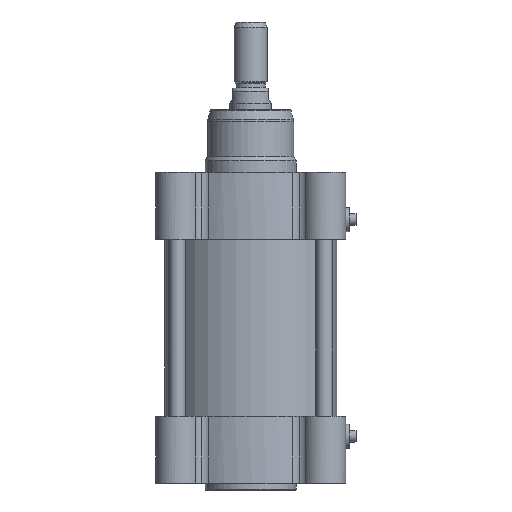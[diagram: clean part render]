
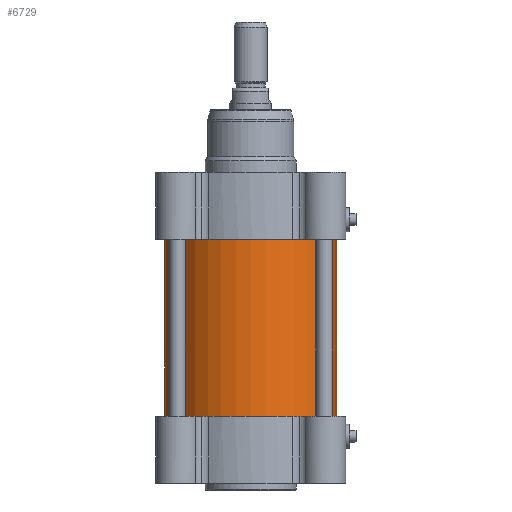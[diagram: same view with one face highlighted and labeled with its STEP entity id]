
A CAD part, front view. The second image highlights one B-rep face of the part: STEP entity #6729.
In plain terms, the highlighted cylindrical face has radius 52 mm (diameter 104 mm), a partial arc.
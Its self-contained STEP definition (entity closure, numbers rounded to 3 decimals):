
#783 = VECTOR ( 'NONE', #2395, 1000. ) ;
#1606 = DIRECTION ( 'NONE',  ( 0., 0., 1. ) ) ;
#2395 = DIRECTION ( 'NONE',  ( 0., 0., 1. ) ) ;
#2619 = DIRECTION ( 'NONE',  ( 0., 0., 1. ) ) ;
#3974 = CARTESIAN_POINT ( 'NONE',  ( 0., 0., 0.2 ) ) ;
#4148 = CARTESIAN_POINT ( 'NONE',  ( 0., 0., 106.8 ) ) ;
#4430 = ORIENTED_EDGE ( 'NONE', *, *, #12678, .T. ) ;
#6729 = ADVANCED_FACE ( 'NONE', ( #22041 ), #26840, .T. ) ;
#7242 = VERTEX_POINT ( 'NONE', #16639 ) ;
#7311 = ORIENTED_EDGE ( 'NONE', *, *, #7531, .F. ) ;
#7531 = EDGE_CURVE ( 'NONE', #7242, #25949, #32236, .T. ) ;
#7597 = DIRECTION ( 'NONE',  ( -1., 0., 0. ) ) ;
#9518 = DIRECTION ( 'NONE',  ( -1., 0., 0. ) ) ;
#9975 = CIRCLE ( 'NONE', #12612, 52. ) ;
#9998 = ORIENTED_EDGE ( 'NONE', *, *, #22264, .F. ) ;
#10364 = VERTEX_POINT ( 'NONE', #15837 ) ;
#11551 = DIRECTION ( 'NONE',  ( 0., 0., -1. ) ) ;
#12612 = AXIS2_PLACEMENT_3D ( 'NONE', #4148, #14216, #7597 ) ;
#12678 = EDGE_CURVE ( 'NONE', #14091, #10364, #22901, .T. ) ;
#14091 = VERTEX_POINT ( 'NONE', #30563 ) ;
#14216 = DIRECTION ( 'NONE',  ( 0., 0., 1. ) ) ;
#14281 = EDGE_CURVE ( 'NONE', #14091, #7242, #22810, .T. ) ;
#15837 = CARTESIAN_POINT ( 'NONE',  ( 52., 0., 106.8 ) ) ;
#15943 = EDGE_LOOP ( 'NONE', ( #30071, #4430, #9998, #7311 ) ) ;
#16639 = CARTESIAN_POINT ( 'NONE',  ( -52., 0., 0.2 ) ) ;
#17789 = CARTESIAN_POINT ( 'NONE',  ( 52., 0., 0. ) ) ;
#20023 = CARTESIAN_POINT ( 'NONE',  ( -52., 0., 0. ) ) ;
#20382 = AXIS2_PLACEMENT_3D ( 'NONE', #27324, #1606, #9518 ) ;
#22041 = FACE_OUTER_BOUND ( 'NONE', #15943, .T. ) ;
#22134 = CARTESIAN_POINT ( 'NONE',  ( -52., 0., 106.8 ) ) ;
#22264 = EDGE_CURVE ( 'NONE', #25949, #10364, #9975, .T. ) ;
#22300 = AXIS2_PLACEMENT_3D ( 'NONE', #3974, #11551, #23151 ) ;
#22810 = CIRCLE ( 'NONE', #22300, 52. ) ;
#22901 = LINE ( 'NONE', #17789, #25475 ) ;
#23151 = DIRECTION ( 'NONE',  ( -1., 0., 0. ) ) ;
#25475 = VECTOR ( 'NONE', #2619, 1000. ) ;
#25949 = VERTEX_POINT ( 'NONE', #22134 ) ;
#26840 = CYLINDRICAL_SURFACE ( 'NONE', #20382, 52. ) ;
#27324 = CARTESIAN_POINT ( 'NONE',  ( 0., 0., 0. ) ) ;
#30071 = ORIENTED_EDGE ( 'NONE', *, *, #14281, .F. ) ;
#30563 = CARTESIAN_POINT ( 'NONE',  ( 52., 0., 0.2 ) ) ;
#32236 = LINE ( 'NONE', #20023, #783 ) ;
